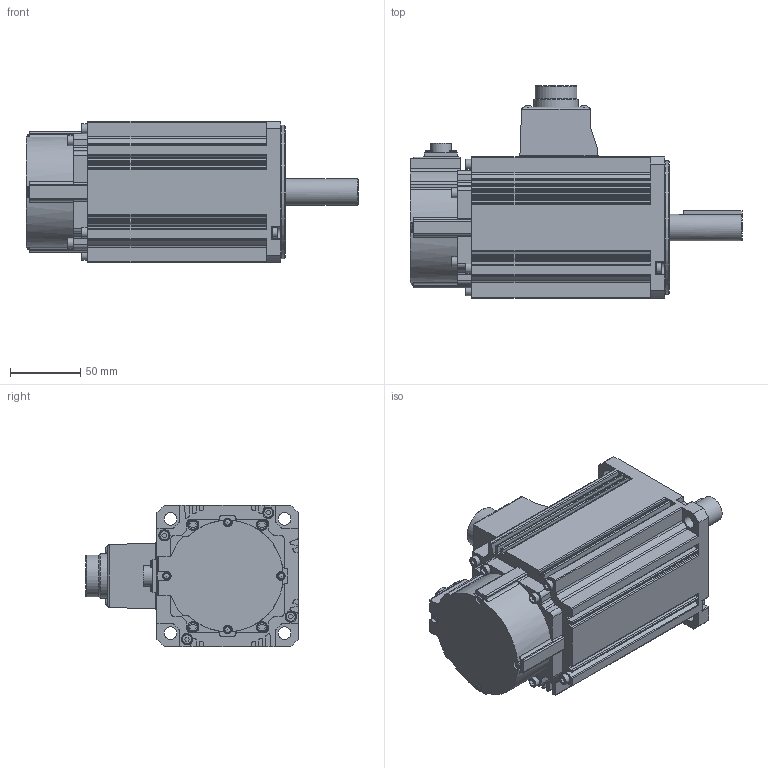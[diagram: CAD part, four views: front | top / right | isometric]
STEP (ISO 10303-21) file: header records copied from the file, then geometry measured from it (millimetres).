
FILE_DESCRIPTION( ( 'STEP AP214' ), '1' );
FILE_NAME( 'e:/temp/worker_59/temp/exporttempdir_7072_1017_weh1i/format_0/MSMF152L1H5.stp', '2022-03-07T07:23:59', ( 'License CC BY-ND 4.0' ), ( 'CADENAS' ), ' ', 'PARTsolutions', ' ' );
FILE_SCHEMA( ( 'AUTOMOTIVE_DESIGN { 1 0 10303 214 1 1 1 1 }' ) );
Length unit declared in the file: millimetre
Products named in the file (2): MSMF152L1H5; _MSMF152L1H5 _body
Assembly tree (1 placements, depth 2):
  MSMF152L1H5
    _MSMF152L1H5 _body
Bounding box: 236.5 x 151.3 x 100.6 mm (x, y, z)
Volume: 1598511.8 mm3; surface area: 119557.7 mm2
Topology: 1 solids, 1 shells, 566 faces, 1515 edges, 991 vertices
Faces by surface type: plane 283, cylinder 228, cone 26, torus 13, sphere 12, bspline 4
Full cylindrical faces by diameter (mm): 2.459 x1, 7 x12, 8 x12, 9 x4, 14.8 x1, 19 x1, 29.75 x1, 31.9 x1, 35 x1, 43 x1, 87 x1, 95 x1
Entity records: 21927 total; most frequent: CARTESIAN_POINT 3330, DIRECTION 2991, ORIENTED_EDGE 2794, EDGE_CURVE 1397, AXIS2_PLACEMENT_3D 1065, VERTEX_POINT 972, LINE 861, VECTOR 861
